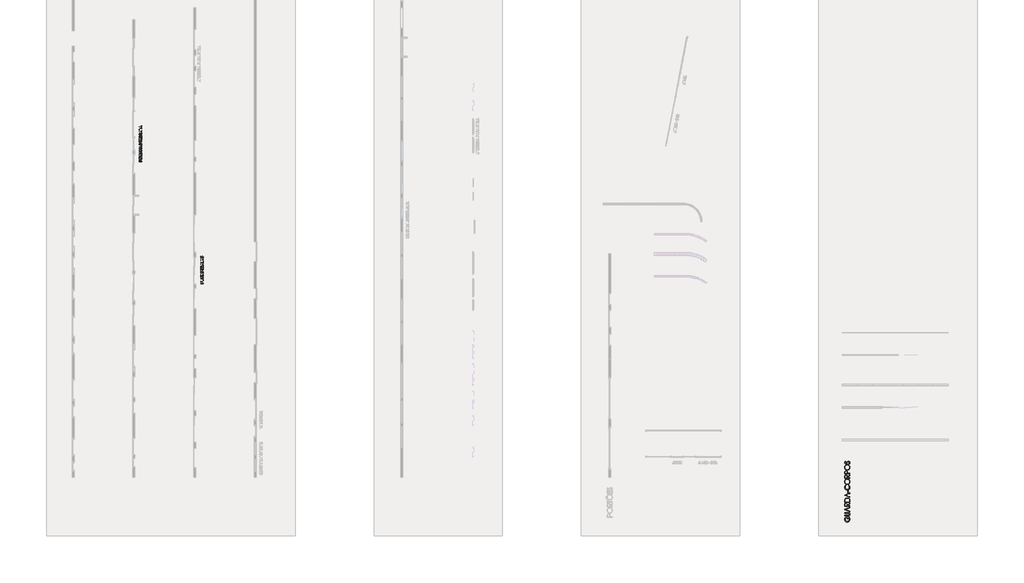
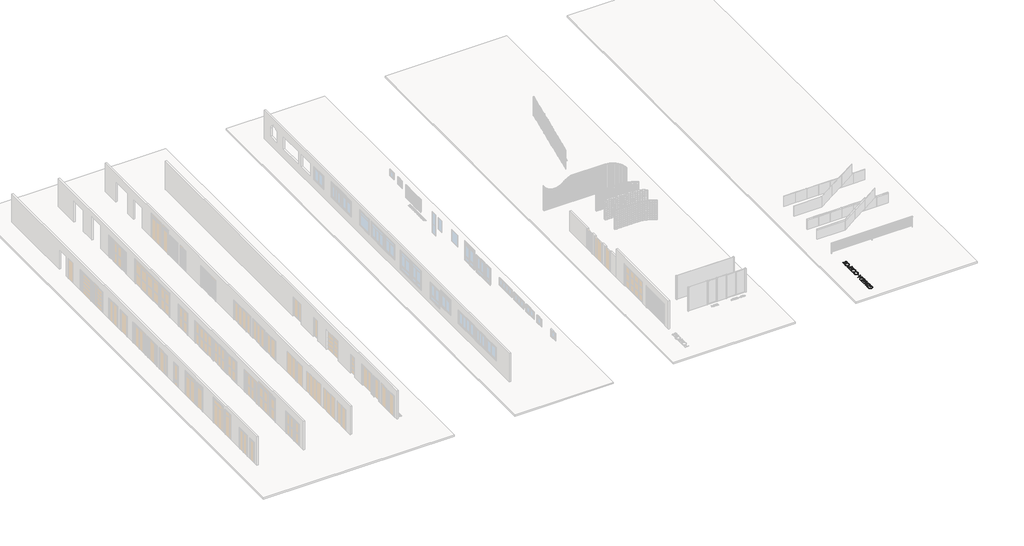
# One storey, part 13 of 15: 3 proxies.
"""IFC4 building model written with IfcOpenShell, lengths in millimetres."""

from ifc_helpers import new_model, si_unit, origin, origin_with_axes, place, context, project, spatial, polyline, outline, extrude, element, save

model = new_model("IFC4")

# Units and contexts
model_context = context("Model", 3, world=origin())
ifc_project = project(units=[si_unit("LENGTHUNIT", "METRE", prefix="MILLI")], contexts=[model_context])

# Site, building, storey
site = spatial("IfcSite", under=ifc_project)
building = spatial("IfcBuilding", under=site)
storey = spatial("IfcBuildingStorey", under=building, Name="TÉRREO", Elevation=0.0)

# Proxies
placement = place(None, origin())
element("IfcBuildingElementProxy", 1, Name="600mm Arial", ObjectType="600mm Arial", at=placement, inside=storey, context=model_context, shape_type="SweptSolid", body=[
    extrude(outline(polyline([(4277.4476059, 11661.1752263), (4277.4476059, 11699.233262), (4280.1484987, 11743.4296906), (4286.0413559, 11758.32757), (4295.9609987, 11770.217637), (4309.4286326, 11778.0072575), (4325.965463, 11780.6037977), (4342.5820925, 11778.0625031), (4355.9944809, 11770.4386192), (4365.871155, 11758.358262), (4371.8806416, 11742.4475477), (4374.8761773, 11693.733262), (4374.8761773, 11680.0323692), (4466.0190344, 11680.0323692), (4466.0190344, 11661.1752263), (4277.4476059, 11661.1752263)]), holes=[polyline([(4293.1618916, 11680.0323692), (4359.1618916, 11680.0323692), (4359.5056416, 11712.8359406), (4355.871713, 11741.9810299), (4344.1351059, 11756.467637), (4326.0145701, 11761.7466549), (4308.1395701, 11756.467637), (4296.5993916, 11742.5703156), (4293.1618916, 11714.3091549), (4293.1618916, 11680.0323692)])]), origin_with_axes(), (0.0, 0.0, 1.0), 10.0),
    extrude(outline(polyline([(4277.4476059, 11818.3180834), (4277.4476059, 11928.3180834), (4293.1618916, 11928.3180834), (4293.1618916, 11837.1752263), (4356.0190344, 11837.1752263), (4356.0190344, 11928.3180834), (4371.7333201, 11928.3180834), (4371.7333201, 11837.1752263), (4450.3047487, 11837.1752263), (4450.3047487, 11928.3180834), (4466.0190344, 11928.3180834), (4466.0190344, 11818.3180834), (4277.4476059, 11818.3180834)])), origin_with_axes(), (0.0, 0.0, 1.0), 10.0),
    extrude(outline(polyline([(4277.4476059, 11959.7466549), (4277.4476059, 11997.8046906), (4279.902963, 12040.8716549), (4285.7528514, 12056.2790209), (4295.8382309, 12068.5189763), (4309.4470478, 12076.5111638), (4325.8672487, 12079.1752263), (4339.8075389, 12077.3398468), (4351.9676951, 12071.8337084), (4361.856646, 12062.920762), (4368.9833201, 12050.8649584), (4373.3293023, 12034.6411861), (4374.8761773, 12013.2243334), (4466.0190344, 12082.3180834), (4466.0190344, 12059.4341549), (4374.8761773, 11990.3404049), (4374.8761773, 11978.6037977), (4466.0190344, 11978.6037977), (4466.0190344, 11959.7466549), (4277.4476059, 11959.7466549)]), holes=[polyline([(4293.1618916, 11978.6037977), (4359.1618916, 11978.6037977), (4359.3583201, 12011.9475477), (4355.6752844, 12040.6261192), (4343.8650166, 12055.1127263), (4325.7199273, 12060.3180834), (4308.0168023, 12055.0390656), (4296.5993916, 12041.1908513), (4293.1618916, 12012.733262), (4293.1618916, 11978.6037977)])]), origin_with_axes(), (0.0, 0.0, 1.0), 10.0),
    extrude(outline(polyline([(4431.6931416, 12101.1752263), (4422.0190344, 12117.2823692), (4445.590463, 12136.5569227), (4451.4833201, 12147.2438647), (4453.4476059, 12158.6305834), (4448.8806416, 12177.4386192), (4436.652963, 12190.8448692), (4420.3984987, 12195.4609406), (4410.6875612, 12193.7790209), (4401.1976059, 12188.733262), (4387.2757309, 12175.670762), (4370.7511773, 12154.9475477), (4344.871713, 12124.2064763), (4331.4777398, 12116.3616102), (4317.027963, 12113.7466549), (4305.6657978, 12115.2566995), (4295.3471594, 12119.7868334), (4286.5938112, 12127.0546906), (4279.9275166, 12136.7779049), (4274.3047487, 12160.545762), (4279.8538559, 12186.0569227), (4287.7355523, 12198.2661861), (4300.2824273, 12211.1752263), (4312.0190344, 12195.7064763), (4294.2913559, 12176.7511192), (4290.0190344, 12159.6618334), (4291.7807532, 12148.8214317), (4297.0659094, 12140.1662977), (4304.9414675, 12134.4944227), (4314.4743916, 12132.6037977), (4326.6038559, 12135.2555834), (4339.4208201, 12144.9296906), (4358.6708201, 12170.1216549), (4375.6189228, 12191.483262), (4390.6150166, 12204.889512), (4404.6657978, 12211.9609406), (4418.777963, 12214.3180834), (4437.7824273, 12210.3281281), (4454.1351059, 12198.358262), (4465.4051951, 12180.6674138), (4469.1618916, 12159.514512), (4467.0073157, 12142.7444227), (4460.543588, 12127.5948692), (4449.0218246, 12113.8203156), (4431.6931416, 12101.1752263)])), origin_with_axes(), (0.0, 0.0, 1.0), 10.0),
    extrude(outline(polyline([(4277.4476059, 12252.0323692), (4277.4476059, 12270.889512), (4466.0190344, 12270.889512), (4466.0190344, 12252.0323692), (4277.4476059, 12252.0323692)])), origin_with_axes(), (0.0, 0.0, 1.0), 10.0),
    extrude(outline(polyline([(4277.4476059, 12387.1752263), (4466.0190344, 12468.889512), (4466.0190344, 12448.6573692), (4400.0190344, 12420.0279049), (4400.0190344, 12351.1305834), (4466.0190344, 12322.5502263), (4466.0190344, 12302.3180834), (4277.4476059, 12384.0323692), (4277.4476059, 12387.1752263)]), holes=[polyline([(4320.465463, 12385.5546906), (4384.3047487, 12357.9073692), (4384.3047487, 12413.2511192), (4320.465463, 12385.5546906)])]), origin_with_axes(), (0.0, 0.0, 1.0), 10.0),
    extrude(outline(polyline([(4466.0190344, 12500.3180834), (4277.4476059, 12500.3180834), (4277.4476059, 12504.295762), (4422.4118916, 12632.3180834), (4277.4476059, 12632.3180834), (4277.4476059, 12651.1752263), (4466.0190344, 12651.1752263), (4466.0190344, 12646.9029049), (4321.3493916, 12519.1752263), (4466.0190344, 12519.1752263), (4466.0190344, 12500.3180834)])), origin_with_axes(), (0.0, 0.0, 1.0), 10.0),
    extrude(outline(polyline([(4277.4476059, 12767.4609406), (4466.0190344, 12849.1752263), (4466.0190344, 12828.9430834), (4400.0190344, 12800.3136192), (4400.0190344, 12731.4162977), (4466.0190344, 12702.8359406), (4466.0190344, 12682.6037977), (4277.4476059, 12764.3180834), (4277.4476059, 12767.4609406)]), holes=[polyline([(4320.465463, 12765.8404049), (4384.3047487, 12738.1930834), (4384.3047487, 12793.5368334), (4320.465463, 12765.8404049)])]), origin_with_axes(), (0.0, 0.0, 1.0), 10.0),
    extrude(outline(polyline([(4277.4476059, 12952.889512), (4277.4476059, 12971.7466549), (4466.0190344, 12971.7466549), (4466.0190344, 12952.889512), (4277.4476059, 12952.889512)])), origin_with_axes(), (0.0, 0.0, 1.0), 10.0),
    extrude(outline(polyline([(4466.0190344, 13015.7466549), (4277.4476059, 13015.7466549), (4277.4476059, 13019.7243334), (4422.4118916, 13147.7466549), (4277.4476059, 13147.7466549), (4277.4476059, 13166.6037977), (4466.0190344, 13166.6037977), (4466.0190344, 13162.3314763), (4321.3493916, 13034.6037977), (4466.0190344, 13034.6037977), (4466.0190344, 13015.7466549)])), origin_with_axes(), (0.0, 0.0, 1.0), 10.0),
    extrude(outline(polyline([(4293.1618916, 13191.7466549), (4277.4476059, 13191.7466549), (4277.4476059, 13292.3180834), (4293.1618916, 13292.3180834), (4293.1618916, 13251.4609406), (4466.0190344, 13251.4609406), (4466.0190344, 13232.6037977), (4293.1618916, 13232.6037977), (4293.1618916, 13191.7466549)])), origin_with_axes(), (0.0, 0.0, 1.0), 10.0),
    extrude(outline(polyline([(4277.4476059, 13320.6037977), (4277.4476059, 13430.6037977), (4293.1618916, 13430.6037977), (4293.1618916, 13339.4609406), (4356.0190344, 13339.4609406), (4356.0190344, 13430.6037977), (4371.7333201, 13430.6037977), (4371.7333201, 13339.4609406), (4450.3047487, 13339.4609406), (4450.3047487, 13430.6037977), (4466.0190344, 13430.6037977), (4466.0190344, 13320.6037977), (4277.4476059, 13320.6037977)])), origin_with_axes(), (0.0, 0.0, 1.0), 10.0),
    extrude(outline(polyline([(4307.5502844, 13641.1752263), (4321.4476059, 13626.4921906), (4307.8510657, 13610.342079), (4297.9989451, 13592.7310299), (4292.0140121, 13574.6289093), (4290.0190344, 13557.0055834), (4292.7751728, 13535.8649584), (4301.043588, 13515.7555834), (4314.0385657, 13498.3655165), (4330.9743916, 13485.3828156), (4350.4085434, 13477.2985522), (4370.8984987, 13474.6037977), (4391.9163559, 13477.4581504), (4411.8538559, 13486.0212084), (4429.1764005, 13499.623887), (4442.3493916, 13517.5971013), (4450.6730523, 13538.7070343), (4453.4476059, 13561.7198692), (4449.0770701, 13588.6305834), (4435.965463, 13611.0234406), (4415.8806416, 13627.0569227), (4390.590463, 13634.889512), (4390.590463, 13575.1752263), (4374.8761773, 13575.1752263), (4374.8761773, 13653.7466549), (4395.418309, 13652.0570622), (4413.7322041, 13647.23382), (4429.8178626, 13639.2769283), (4443.6752844, 13628.186387), (4454.8256751, 13614.459406), (4462.7902398, 13598.593195), (4467.5689786, 13580.5877542), (4469.1618916, 13560.4430834), (4466.9704853, 13536.0276258), (4460.3962666, 13514.2946459), (4449.4392353, 13495.2441437), (4434.0993916, 13478.8761192), (4404.9911326, 13461.5290209), (4371.684213, 13455.7466549), (4346.2282978, 13459.030695), (4322.6016237, 13468.8828156), (4302.3694809, 13484.468195), (4287.0971594, 13504.952012), (4277.5028514, 13529.3828156), (4274.3047487, 13556.8091549), (4276.2813112, 13579.5089317), (4282.2109987, 13600.858262), (4292.4989451, 13621.2745567), (4307.5502844, 13641.1752263)])), origin_with_axes(), (0.0, 0.0, 1.0), 10.0),
    extrude(outline(polyline([(4277.4476059, 13691.4609406), (4277.4476059, 13729.5189763), (4279.902963, 13772.5859406), (4285.7528514, 13787.9933067), (4295.8382309, 13800.233262), (4309.4470478, 13808.2254495), (4325.8672487, 13810.889512), (4339.8075389, 13809.0541325), (4351.9676951, 13803.5479942), (4361.856646, 13794.6350477), (4368.9833201, 13782.5792442), (4373.3293023, 13766.3554718), (4374.8761773, 13744.9386192), (4466.0190344, 13814.0323692), (4466.0190344, 13791.1484406), (4374.8761773, 13722.0546906), (4374.8761773, 13710.3180834), (4466.0190344, 13710.3180834), (4466.0190344, 13691.4609406), (4277.4476059, 13691.4609406)]), holes=[polyline([(4293.1618916, 13710.3180834), (4359.1618916, 13710.3180834), (4359.3583201, 13743.6618334), (4355.6752844, 13772.3404049), (4343.8650166, 13786.827012), (4325.7199273, 13792.0323692), (4308.0168023, 13786.7533513), (4296.5993916, 13772.905137), (4293.1618916, 13744.4475477), (4293.1618916, 13710.3180834)])]), origin_with_axes(), (0.0, 0.0, 1.0), 10.0),
    extrude(outline(polyline([(4277.4476059, 13924.0323692), (4466.0190344, 14005.7466549), (4466.0190344, 13985.514512), (4400.0190344, 13956.8850477), (4400.0190344, 13887.9877263), (4466.0190344, 13859.4073692), (4466.0190344, 13839.1752263), (4277.4476059, 13920.889512), (4277.4476059, 13924.0323692)]), holes=[polyline([(4320.465463, 13922.4118334), (4384.3047487, 13894.764512), (4384.3047487, 13950.108262), (4320.465463, 13922.4118334)])]), origin_with_axes(), (0.0, 0.0, 1.0), 10.0),
    extrude(outline(polyline([(4466.0190344, 14037.1752263), (4277.4476059, 14037.1752263), (4277.4476059, 14076.608262), (4279.1418023, 14113.4631727), (4284.2243916, 14138.5814763), (4297.3728291, 14163.2516772), (4317.5681416, 14181.8694227), (4343.5580969, 14193.5630611), (4374.090463, 14197.4609406), (4400.7249496, 14194.373329), (4423.9587666, 14185.1104942), (4442.6747264, 14170.9123915), (4455.7556416, 14153.0189763), (4463.4531862, 14129.3247799), (4466.0190344, 14097.7243334), (4466.0190344, 14037.1752263)]), holes=[polyline([(4450.3047487, 14056.0323692), (4450.3047487, 14077.983262), (4449.0525166, 14111.3392888), (4445.2958201, 14132.639512), (4435.277963, 14151.7667442), (4419.5636773, 14166.327012), (4398.9386773, 14175.5346013), (4374.1886773, 14178.6037977), (4348.0943693, 14175.2767888), (4326.0882309, 14165.295762), (4309.262896, 14149.3727709), (4298.7109987, 14128.2198692), (4294.5491684, 14104.623887), (4293.1618916, 14069.4877263), (4293.1618916, 14056.0323692), (4450.3047487, 14056.0323692)])]), origin_with_axes(), (0.0, 0.0, 1.0), 10.0),
    extrude(outline(polyline([(4277.4476059, 14307.4609406), (4466.0190344, 14389.1752263), (4466.0190344, 14368.9430834), (4400.0190344, 14340.3136192), (4400.0190344, 14271.4162977), (4466.0190344, 14242.8359406), (4466.0190344, 14222.6037977), (4277.4476059, 14304.3180834), (4277.4476059, 14307.4609406)]), holes=[polyline([(4320.465463, 14305.8404049), (4384.3047487, 14278.1930834), (4384.3047487, 14333.5368334), (4320.465463, 14305.8404049)])]), origin_with_axes(), (0.0, 0.0, 1.0), 10.0),
])
element("IfcBuildingElementProxy", 2, Name="600mm Arial", ObjectType="600mm Arial", at=placement, inside=storey, context=model_context, shape_type="SweptSolid", body=[
    extrude(outline(polyline([(8954.1104644, 2338.0827892), (8954.1104644, 2376.1408249), (8956.8113572, 2420.3372535), (8962.7042144, 2435.2351329), (8972.6238572, 2447.1251999), (8986.0914912, 2454.9148204), (9002.6283215, 2457.5113606), (9019.244951, 2454.970066), (9032.6573394, 2447.346182), (9042.5340135, 2435.2658249), (9048.5435001, 2419.3551106), (9051.5390358, 2370.6408249), (9051.5390358, 2356.939932), (9142.681893, 2356.939932), (9142.681893, 2338.0827892), (8954.1104644, 2338.0827892)]), holes=[polyline([(8969.8247501, 2356.939932), (9035.8247501, 2356.939932), (9036.1685001, 2389.7435035), (9032.5345715, 2418.8885927), (9020.7979644, 2433.3751999), (9002.6774287, 2438.6542177), (8984.8024287, 2433.3751999), (8973.2622501, 2419.4778785), (8969.8247501, 2391.2167177), (8969.8247501, 2356.939932)])]), origin_with_axes(), (0.0, 0.0, 1.0), 10.0),
    extrude(outline(polyline([(8950.9676072, 2586.7122535), (8952.7247222, 2607.2006742), (8957.9960671, 2625.9427222), (8966.7816418, 2642.9383974), (8979.0814465, 2658.1876999), (8993.9532378, 2670.7668014), (9010.4547724, 2679.751874), (9028.5860503, 2685.1429175), (9048.3470715, 2686.939932), (9067.9316139, 2685.1459867), (9085.9754197, 2679.7641508), (9102.4784889, 2670.7944242), (9117.4408215, 2658.236807), (9129.8587903, 2643.1010648), (9138.728768, 2626.3969633), (9144.0507546, 2608.1245023), (9145.8247501, 2588.283682), (9144.0584276, 2568.18198), (9138.7594599, 2549.7161597), (9129.9278472, 2532.8862211), (9117.5635894, 2517.6921642), (9102.6948673, 2505.1130626), (9086.3498617, 2496.1279901), (9068.5285726, 2490.7369465), (9049.2310001, 2488.939932), (9023.4497501, 2492.2178338), (8999.6327858, 2502.0515392), (8979.2778751, 2517.5387044), (8963.8827858, 2537.7769856), (8954.1964019, 2561.3177222), (8950.9676072, 2586.7122535)]), holes=[polyline([(8966.681893, 2587.5470749), (8969.4441697, 2567.0816731), (8977.7310001, 2547.721182), (8990.6952858, 2530.9756463), (9007.4899287, 2518.3551106), (9027.2678305, 2510.4365838), (9049.181893, 2507.7970749), (9080.5674956, 2513.6408249), (9106.6618037, 2531.1720749), (9124.2482992, 2556.9533249), (9130.1104644, 2587.5470749), (9127.4157099, 2608.767499), (9119.3314465, 2628.330557), (9106.5697278, 2645.0085704), (9089.8426072, 2657.5738606), (9070.089259, 2665.455557), (9048.2488572, 2668.0827892), (9026.604884, 2665.455557), (9007.1461787, 2657.5738606), (8990.6093483, 2644.9287713), (8977.7310001, 2628.0113606), (8969.4441697, 2608.3685035), (8966.681893, 2587.5470749)])]), origin_with_axes(), (0.0, 0.0, 1.0), 10.0),
    extrude(outline(polyline([(8954.1104644, 2724.6542177), (8954.1104644, 2762.7122535), (8956.5658215, 2805.7792177), (8962.4157099, 2821.1865838), (8972.5010894, 2833.4265392), (8986.1099064, 2841.4187267), (9002.5301072, 2844.0827892), (9016.4703974, 2842.2474097), (9028.6305537, 2836.7412713), (9038.5195046, 2827.8283249), (9045.6461787, 2815.7725213), (9049.9921608, 2799.548749), (9051.5390358, 2778.1318963), (9142.681893, 2847.2256463), (9142.681893, 2824.3417177), (9051.5390358, 2755.2479677), (9051.5390358, 2743.5113606), (9142.681893, 2743.5113606), (9142.681893, 2724.6542177), (8954.1104644, 2724.6542177)]), holes=[polyline([(8969.8247501, 2743.5113606), (9035.8247501, 2743.5113606), (9036.0211787, 2776.8551106), (9032.338143, 2805.533682), (9020.5278751, 2820.0202892), (9002.3827858, 2825.2256463), (8984.6796608, 2819.9466285), (8973.2622501, 2806.0984142), (8969.8247501, 2777.6408249), (8969.8247501, 2743.5113606)])]), origin_with_axes(), (0.0, 0.0, 1.0), 10.0),
    extrude(outline(polyline([(8969.8247501, 2866.0827892), (8954.1104644, 2866.0827892), (8954.1104644, 2966.6542177), (8969.8247501, 2966.6542177), (8969.8247501, 2925.7970749), (9142.681893, 2925.7970749), (9142.681893, 2906.939932), (8969.8247501, 2906.939932), (8969.8247501, 2866.0827892)])), origin_with_axes(), (0.0, 0.0, 1.0), 10.0),
    extrude(outline(polyline([(8954.1104644, 3067.2256463), (9142.681893, 3148.939932), (9142.681893, 3128.7077892), (9076.681893, 3100.0783249), (9076.681893, 3031.1810035), (9142.681893, 3002.6006463), (9142.681893, 2982.3685035), (8954.1104644, 3064.0827892), (8954.1104644, 3067.2256463)]), holes=[polyline([(8997.1283215, 3065.6051106), (9060.9676072, 3037.9577892), (9060.9676072, 3093.3015392), (8997.1283215, 3065.6051106)])]), origin_with_axes(), (0.0, 0.0, 1.0), 10.0),
    extrude(outline(polyline([(9108.3560001, 3161.5113606), (9098.681893, 3177.6185035), (9122.2533215, 3196.893057), (9128.1461787, 3207.579999), (9130.1104644, 3218.9667177), (9125.5435001, 3237.7747535), (9113.3158215, 3251.1810035), (9097.0613572, 3255.7970749), (9087.3504197, 3254.1151552), (9077.8604644, 3249.0693963), (9063.9385894, 3236.0068963), (9047.4140358, 3215.283682), (9021.5345715, 3184.5426106), (9008.1405983, 3176.6977445), (8993.6908215, 3174.0827892), (8982.3286564, 3175.5928338), (8972.010018, 3180.1229677), (8963.2566697, 3187.3908249), (8956.5903751, 3197.1140392), (8950.9676072, 3220.8818963), (8956.5167144, 3246.393057), (8964.3984108, 3258.6023204), (8976.9452858, 3271.5113606), (8988.681893, 3256.0426106), (8970.9542144, 3237.0872535), (8966.681893, 3219.9979677), (8968.4436117, 3209.157566), (8973.728768, 3200.502432), (8981.604326, 3194.830557), (8991.1372501, 3192.939932), (9003.2667144, 3195.5917177), (9016.0836787, 3205.2658249), (9035.3336787, 3230.4577892), (9052.2817814, 3251.8193963), (9067.2778751, 3265.2256463), (9081.3286564, 3272.2970749), (9095.4408215, 3274.6542177), (9114.4452858, 3270.6642624), (9130.7979644, 3258.6943963), (9142.0680537, 3241.0035481), (9145.8247501, 3219.8506463), (9143.6701742, 3203.080557), (9137.2064465, 3187.9310035), (9125.6846831, 3174.1564499), (9108.3560001, 3161.5113606)])), origin_with_axes(), (0.0, 0.0, 1.0), 10.0),
    extrude(outline(polyline([(8969.8247501, 3365.7970749), (8954.1104644, 3365.7970749), (8954.1104644, 3466.3685035), (8969.8247501, 3466.3685035), (8969.8247501, 3425.5113606), (9142.681893, 3425.5113606), (9142.681893, 3406.6542177), (8969.8247501, 3406.6542177), (8969.8247501, 3365.7970749)])), origin_with_axes(), (0.0, 0.0, 1.0), 10.0),
    extrude(outline(polyline([(8954.1104644, 3494.6542177), (8954.1104644, 3604.6542177), (8969.8247501, 3604.6542177), (8969.8247501, 3513.5113606), (9032.681893, 3513.5113606), (9032.681893, 3604.6542177), (9048.3961787, 3604.6542177), (9048.3961787, 3513.5113606), (9126.9676072, 3513.5113606), (9126.9676072, 3604.6542177), (9142.681893, 3604.6542177), (9142.681893, 3494.6542177), (8954.1104644, 3494.6542177)])), origin_with_axes(), (0.0, 0.0, 1.0), 10.0),
    extrude(outline(polyline([(8954.1104644, 3636.0827892), (8954.1104644, 3654.939932), (9126.9676072, 3654.939932), (9126.9676072, 3730.3685035), (9142.681893, 3730.3685035), (9142.681893, 3636.0827892), (8954.1104644, 3636.0827892)])), origin_with_axes(), (0.0, 0.0, 1.0), 10.0),
    extrude(outline(polyline([(8954.1104644, 3830.939932), (9142.681893, 3912.6542177), (9142.681893, 3892.4220749), (9076.681893, 3863.7926106), (9076.681893, 3794.8952892), (9142.681893, 3766.314932), (9142.681893, 3746.0827892), (8954.1104644, 3827.7970749), (8954.1104644, 3830.939932)]), holes=[polyline([(8997.1283215, 3829.3193963), (9060.9676072, 3801.6720749), (9060.9676072, 3857.0158249), (8997.1283215, 3829.3193963)])]), origin_with_axes(), (0.0, 0.0, 1.0), 10.0),
    extrude(outline(polyline([(9142.681893, 3944.0827892), (8954.1104644, 3944.0827892), (8954.1104644, 3983.5158249), (8955.8046608, 4020.3707356), (8960.8872501, 4045.4890392), (8974.0356876, 4070.1592401), (8994.2310001, 4088.7769856), (9020.2209555, 4100.470624), (9050.7533215, 4104.3685035), (9077.3878081, 4101.2808919), (9100.6216251, 4092.018057), (9119.3375849, 4077.8199544), (9132.4185001, 4059.9265392), (9140.1160447, 4036.2323427), (9142.681893, 4004.6318963), (9142.681893, 3944.0827892)]), holes=[polyline([(9126.9676072, 3962.939932), (9126.9676072, 3984.8908249), (9125.7153751, 4018.2468517), (9121.9586787, 4039.5470749), (9111.9408215, 4058.674307), (9096.2265358, 4073.2345749), (9075.6015358, 4082.4421642), (9050.8515358, 4085.5113606), (9024.7572278, 4082.1843517), (9002.7510894, 4072.2033249), (8985.9257546, 4056.2803338), (8975.3738572, 4035.127432), (8971.2120269, 4011.5314499), (8969.8247501, 3976.3952892), (8969.8247501, 3962.939932), (9126.9676072, 3962.939932)])]), origin_with_axes(), (0.0, 0.0, 1.0), 10.0),
    extrude(outline(polyline([(8954.1104644, 4214.3685035), (9142.681893, 4296.0827892), (9142.681893, 4275.8506463), (9076.681893, 4247.221182), (9076.681893, 4178.3238606), (9142.681893, 4149.7435035), (9142.681893, 4129.5113606), (8954.1104644, 4211.2256463), (8954.1104644, 4214.3685035)]), holes=[polyline([(8997.1283215, 4212.7479677), (9060.9676072, 4185.1006463), (9060.9676072, 4240.4443963), (8997.1283215, 4212.7479677)])]), origin_with_axes(), (0.0, 0.0, 1.0), 10.0),
    extrude(outline(polyline([(9108.3560001, 4308.6542177), (9098.681893, 4324.7613606), (9122.2533215, 4344.0359142), (9128.1461787, 4354.7228561), (9130.1104644, 4366.1095749), (9125.5435001, 4384.9176106), (9113.3158215, 4398.3238606), (9097.0613572, 4402.939932), (9087.3504197, 4401.2580124), (9077.8604644, 4396.2122535), (9063.9385894, 4383.1497535), (9047.4140358, 4362.4265392), (9021.5345715, 4331.6854677), (9008.1405983, 4323.8406017), (8993.6908215, 4321.2256463), (8982.3286564, 4322.735691), (8972.010018, 4327.2658249), (8963.2566697, 4334.533682), (8956.5903751, 4344.2568963), (8950.9676072, 4368.0247535), (8956.5167144, 4393.5359142), (8964.3984108, 4405.7451776), (8976.9452858, 4418.6542177), (8988.681893, 4403.1854677), (8970.9542144, 4384.2301106), (8966.681893, 4367.1408249), (8968.4436117, 4356.3004231), (8973.728768, 4347.6452892), (8981.604326, 4341.9734142), (8991.1372501, 4340.0827892), (9003.2667144, 4342.7345749), (9016.0836787, 4352.408682), (9035.3336787, 4377.6006463), (9052.2817814, 4398.9622535), (9067.2778751, 4412.3685035), (9081.3286564, 4419.439932), (9095.4408215, 4421.7970749), (9114.4452858, 4417.8071195), (9130.7979644, 4405.8372535), (9142.0680537, 4388.1464052), (9145.8247501, 4366.9935035), (9143.6701742, 4350.2234142), (9137.2064465, 4335.0738606), (9125.6846831, 4321.299307), (9108.3560001, 4308.6542177)])), origin_with_axes(), (0.0, 0.0, 1.0), 10.0),
])
element("IfcBuildingElementProxy", 3, Name="600mm Arial 2", ObjectType="600mm Arial 2", at=placement, inside=storey, context=model_context, shape_type="SweptSolid", body=[
    extrude(outline(polyline([(58178.131222, -15482.9892881), (58206.044308, -15512.4804991), (58178.735348, -15544.9183653), (58158.94714, -15580.2905577), (58146.926266, -15616.6490782), (58142.919308, -15652.0459287), (58148.4550746, -15694.5073545), (58165.0623744, -15734.8974912), (58191.1630824, -15769.825836), (58225.1790736, -15795.9018858), (58264.2130091, -15812.1393125), (58305.3675501, -15817.5517881), (58347.5823939, -15811.8187559), (58387.6273158, -15794.6196592), (58422.4200404, -15767.2983702), (58448.8782923, -15731.1987608), (58465.596554, -15688.7989805), (58471.169308, -15642.5771787), (58468.9747279, -15614.4175108), (58462.3909876, -15588.5263975), (58451.4180873, -15564.9038389), (58436.0560267, -15543.549835), (58417.1925013, -15525.3890684), (58395.7152064, -15511.3462217), (58371.6241419, -15501.421295), (58344.919308, -15495.6142881), (58344.919308, -15615.5517881), (58313.356808, -15615.5517881), (58313.356808, -15457.7392881), (58354.6161463, -15461.1328733), (58391.4000208, -15470.8204649), (58423.7084315, -15486.8020628), (58451.5413783, -15509.077667), (58473.9371913, -15536.6486204), (58489.9342005, -15568.5162657), (58499.5324061, -15604.6806028), (58502.731808, -15645.1416319), (58498.3303187, -15694.1806333), (58485.1258509, -15737.8318174), (58463.1184046, -15776.0951841), (58432.3079798, -15808.9707334), (58404.1298182, -15829.2952574), (58373.8433802, -15843.8127745), (58341.4486659, -15852.5232847), (58306.9456751, -15855.4267881), (58280.922024, -15853.7777708), (58255.816891, -15848.8307188), (58231.630276, -15840.5856321), (58208.362179, -15829.0425108), (58186.7985804, -15814.6205442), (58167.7254603, -15797.7389219), (58151.1428187, -15778.3976438), (58137.0506556, -15756.59671), (58125.8095973, -15732.8138731), (58117.7802699, -15707.5268858), (58112.9626734, -15680.7357481), (58111.356808, -15652.44046), (58115.3267787, -15606.8474424), (58127.2366908, -15563.9668272), (58147.900265, -15522.9602354), (58178.131222, -15482.9892881)])), origin_with_axes(), (0.0, 0.0, 1.0), 10.0),
    extrude(outline(polyline([(58117.669308, -15381.9892881), (58117.669308, -15344.1142881), (58347.0892298, -15344.1142881), (58398.0823939, -15342.5361631), (58418.7213099, -15337.789459), (58435.6614955, -15329.2700498), (58449.5317347, -15316.0779112), (58460.9608119, -15297.3130186), (58468.6171839, -15275.7001036), (58471.169308, -15253.9638975), (58469.1719935, -15235.334625), (58463.1800501, -15217.5190733), (58453.6249964, -15201.5405577), (58440.9383509, -15188.4223936), (58425.2187464, -15178.3002012), (58406.5648158, -15171.3096006), (58347.0892298, -15167.3642881), (58117.669308, -15167.3642881), (58117.669308, -15129.4892881), (58344.4261439, -15129.4892881), (58389.9081996, -15131.9797666), (58425.7488978, -15139.4512022), (58454.7592738, -15154.4187315), (58479.7503626, -15179.3974912), (58489.804745, -15195.1725767), (58496.9864466, -15212.513458), (58502.731808, -15251.8926084), (58497.3070033, -15294.6745909), (58481.0325892, -15330.8974912), (58455.8072474, -15358.3913877), (58440.5499842, -15368.0512388), (58423.5296595, -15374.9863584), (58392.8055384, -15380.2385557), (58344.4261439, -15381.9892881), (58117.669308, -15381.9892881)])), origin_with_axes(), (0.0, 0.0, 1.0), 10.0),
    extrude(outline(polyline([(58117.669308, -14895.9267881), (58496.419308, -14731.8017881), (58496.419308, -14772.4385069), (58363.856808, -14829.9414366), (58363.856808, -14968.3232725), (58496.419308, -15025.7275694), (58496.419308, -15066.3642881), (58117.669308, -14902.2392881), (58117.669308, -14895.9267881)]), holes=[polyline([(58204.0716517, -14899.1816709), (58332.294308, -14954.7119444), (58332.294308, -14843.5527647), (58204.0716517, -14899.1816709)])]), origin_with_axes(), (0.0, 0.0, 1.0), 10.0),
    extrude(outline(polyline([(58117.669308, -14668.6767881), (58117.669308, -14592.2363584), (58118.9022181, -14538.7033995), (58122.6009486, -14505.7353819), (58134.3505824, -14474.789337), (58154.6072962, -14450.2051084), (58181.9409144, -14434.1526182), (58214.9212611, -14428.8017881), (58242.9206507, -14432.4881895), (58267.3446009, -14443.5473936), (58287.2067835, -14461.4492491), (58301.5208705, -14485.6636045), (58310.2498744, -14518.24942), (58313.356808, -14561.2656553), (58496.419308, -14422.4892881), (58496.419308, -14468.4521787), (58313.356808, -14607.2285459), (58313.356808, -14630.8017881), (58496.419308, -14630.8017881), (58496.419308, -14668.6767881), (58117.669308, -14668.6767881)]), holes=[polyline([(58149.231808, -14630.8017881), (58281.794308, -14630.8017881), (58282.1888392, -14563.8301084), (58280.339474, -14529.9497373), (58274.7913783, -14506.2285459), (58265.1623499, -14489.6335752), (58251.0701869, -14477.1318662), (58233.7971156, -14469.2905577), (58214.6253626, -14466.6767881), (58195.971432, -14469.327545), (58179.0682337, -14477.2798155), (58165.3212855, -14489.5349424), (58156.1361048, -14505.0942686), (58150.9578822, -14527.9894102), (58149.231808, -14562.2519834), (58149.231808, -14630.8017881)])]), origin_with_axes(), (0.0, 0.0, 1.0), 10.0),
    extrude(outline(polyline([(58496.419308, -14346.7392881), (58117.669308, -14346.7392881), (58117.669308, -14267.5371397), (58121.07214, -14193.5132139), (58131.2806361, -14143.0625303), (58142.7158778, -14116.767639), (58157.6895716, -14093.5118711), (58176.2017176, -14073.2952268), (58198.2523158, -14056.1177061), (58223.2125819, -14042.416992), (58250.4537318, -14032.6307676), (58279.9757655, -14026.759033), (58311.778683, -14024.8017881), (58339.3804591, -14026.3521726), (58365.2746546, -14031.0033262), (58389.4612696, -14038.7552488), (58411.940304, -14049.6079405), (58432.1507838, -14062.9387815), (58449.5317347, -14078.1251524), (58464.0831568, -14095.167053), (58475.8050501, -14114.0644834), (58484.8237879, -14135.8746641), (58491.2657435, -14161.6548155), (58496.419308, -14225.1250303), (58496.419308, -14346.7392881)]), holes=[polyline([(58464.856808, -14308.8642881), (58464.856808, -14264.7754209), (58462.3416712, -14197.779083), (58454.7962611, -14154.9971006), (58446.16589, -14134.6417539), (58434.6751673, -14116.5796202), (58420.3240931, -14100.8106993), (58403.1126673, -14087.3349912), (58383.4354212, -14076.5470274), (58361.6868861, -14068.8413389), (58337.8670619, -14064.2179258), (58311.9759486, -14062.6767881), (58284.7440455, -14064.3473814), (58259.5649378, -14069.3591612), (58236.4386256, -14077.7121275), (58215.3651087, -14089.4062803), (58196.8930323, -14104.0840757), (58181.5710414, -14121.3879698), (58169.3991358, -14141.3179624), (58160.3773158, -14163.8740537), (58152.0181849, -14211.2671202), (58149.231808, -14281.8388975), (58149.231808, -14308.8642881), (58464.856808, -14308.8642881)])]), origin_with_axes(), (0.0, 0.0, 1.0), 10.0),
    extrude(outline(polyline([(58117.669308, -13803.8642881), (58496.419308, -13639.7392881), (58496.419308, -13680.3760069), (58363.856808, -13737.8789366), (58363.856808, -13876.2607725), (58496.419308, -13933.6650694), (58496.419308, -13974.3017881), (58117.669308, -13810.1767881), (58117.669308, -13803.8642881)]), holes=[polyline([(58204.0716517, -13807.1191709), (58332.294308, -13862.6494444), (58332.294308, -13751.4902647), (58204.0716517, -13807.1191709)])]), origin_with_axes(), (0.0, 0.0, 1.0), 10.0),
    extrude(outline(polyline([(58338.606808, -13608.1767881), (58338.606808, -13462.9892881), (58370.169308, -13462.9892881), (58370.169308, -13608.1767881), (58338.606808, -13608.1767881)])), origin_with_axes(), (0.0, 0.0, 1.0), 10.0),
    extrude(outline(polyline([(58182.9642298, -13046.3642881), (58206.044308, -13076.3486631), (58178.735348, -13103.3617246), (58158.94714, -13135.2817686), (58146.926266, -13171.3443907), (58142.919308, -13210.7851866), (58148.4180873, -13254.0973203), (58164.9144251, -13294.0805967), (58190.6822474, -13328.0965879), (58223.9954798, -13353.5068662), (58263.3992884, -13369.3374327), (58307.4388392, -13374.6142881), (58341.0048182, -13371.6676328), (58371.6734583, -13362.827667), (58399.4447596, -13348.0943907), (58424.318722, -13327.4678037), (58444.8158534, -13302.3534239), (58459.4566615, -13274.1567686), (58468.2411463, -13242.8778379), (58471.169308, -13208.5166319), (58467.2239955, -13170.6293028), (58455.388058, -13135.9721983), (58435.6614955, -13104.5453184), (58408.044308, -13076.3486631), (58430.8284876, -13046.3642881), (58461.2690394, -13077.8404844), (58483.9422572, -13116.2456358), (58498.0344203, -13160.5687559), (58502.731808, -13209.7988584), (58498.6632044, -13256.365875), (58486.4573939, -13297.7300108), (58466.1143763, -13333.8912657), (58437.6341517, -13364.8496397), (58408.7347376, -13385.6919859), (58376.974972, -13400.579376), (58342.3548548, -13409.5118101), (58304.8743861, -13412.4892881), (58265.6092799, -13408.8861082), (58229.5805628, -13398.0765684), (58196.788235, -13380.0606687), (58167.2322962, -13354.8384092), (58142.7867701, -13324.1851805), (58125.32568, -13289.8763731), (58114.849026, -13251.9119871), (58111.356808, -13210.2920225), (58116.0665248, -13160.4454649), (58130.1956751, -13115.6538389), (58152.8072474, -13077.1993711), (58182.9642298, -13046.3642881)])), origin_with_axes(), (0.0, 0.0, 1.0), 10.0),
    extrude(outline(polyline([(58111.356808, -12786.8613584), (58114.8860133, -12745.7098997), (58125.4736292, -12708.0660703), (58143.1196559, -12673.9298704), (58167.8240931, -12643.3012998), (58197.6944239, -12618.0358885), (58230.8381312, -12599.9891661), (58267.2552149, -12589.1611326), (58306.9456751, -12585.5517881), (58346.2816737, -12589.1549681), (58382.5230677, -12599.9645078), (58415.6698573, -12617.9804075), (58445.7220423, -12643.202667), (58470.6638148, -12673.6031492), (58488.4793665, -12707.1537168), (58499.1686976, -12743.8543699), (58502.731808, -12783.7051084), (58499.184109, -12824.0798338), (58488.5410121, -12861.1688536), (58470.8025172, -12894.9721678), (58445.9686244, -12925.4897764), (58416.1044581, -12950.7551878), (58383.2751429, -12968.8019102), (58347.4806788, -12979.6299436), (58308.7210658, -12983.2392881), (58282.3367884, -12981.5933531), (58256.9388392, -12976.6555479), (58232.5272181, -12968.4258726), (58209.1019251, -12956.9043272), (58187.4150355, -12942.5440061), (58168.2186244, -12925.7980039), (58151.5126917, -12906.6663206), (58137.2972376, -12885.1489561), (58125.9482997, -12861.9733274), (58117.8419154, -12837.8668516), (58112.9780848, -12812.8295286), (58111.356808, -12786.8613584)]), holes=[polyline([(58142.919308, -12785.1846006), (58148.4674037, -12826.2898252), (58165.1116908, -12865.1758116), (58191.1507533, -12898.8096006), (58224.8831751, -12924.1582334), (58264.6075404, -12940.0627745), (58308.622433, -12945.3642881), (58341.4702418, -12942.429962), (58371.6611292, -12933.6269834), (58399.1950953, -12918.9553526), (58424.07214, -12898.4150694), (58444.677151, -12873.732208), (58459.395016, -12846.6328428), (58468.225735, -12817.1169737), (58471.169308, -12785.1846006), (58465.7568324, -12742.5628965), (58449.5194056, -12703.2700498), (58423.8872035, -12669.7718809), (58390.2904017, -12644.53421), (58350.6153529, -12628.7036436), (58306.7484095, -12623.4267881), (58263.2759974, -12628.7036436), (58224.1927455, -12644.53421), (58190.9781458, -12669.9321592), (58165.1116908, -12703.9111631), (58148.4674037, -12743.3642881), (58142.919308, -12785.1846006)])]), origin_with_axes(), (0.0, 0.0, 1.0), 10.0),
    extrude(outline(polyline([(58117.669308, -12509.8017881), (58117.669308, -12433.3613584), (58118.9022181, -12379.8283995), (58122.6009486, -12346.8603819), (58134.3505824, -12315.914337), (58154.6072962, -12291.3301084), (58181.9409144, -12275.2776182), (58214.9212611, -12269.9267881), (58242.9206507, -12273.6131895), (58267.3446009, -12284.6723936), (58287.2067835, -12302.5742491), (58301.5208705, -12326.7886045), (58310.2498744, -12359.37442), (58313.356808, -12402.3906553), (58496.419308, -12263.6142881), (58496.419308, -12309.5771787), (58313.356808, -12448.3535459), (58313.356808, -12471.9267881), (58496.419308, -12471.9267881), (58496.419308, -12509.8017881), (58117.669308, -12509.8017881)]), holes=[polyline([(58149.231808, -12471.9267881), (58281.794308, -12471.9267881), (58282.1888392, -12404.9551084), (58280.339474, -12371.0747373), (58274.7913783, -12347.3535459), (58265.1623499, -12330.7585752), (58251.0701869, -12318.2568662), (58233.7971156, -12310.4155577), (58214.6253626, -12307.8017881), (58195.971432, -12310.452545), (58179.0682337, -12318.4048155), (58165.3212855, -12330.6599424), (58156.1361048, -12346.2192686), (58150.9578822, -12369.1144102), (58149.231808, -12403.3769834), (58149.231808, -12471.9267881)])]), origin_with_axes(), (0.0, 0.0, 1.0), 10.0),
    extrude(outline(polyline([(58117.669308, -12187.8642881), (58117.669308, -12111.4238584), (58119.0255091, -12056.3374327), (58123.0941126, -12022.6543272), (58134.9300501, -11992.7315977), (58154.8538783, -11968.850128), (58181.9039271, -11953.2044981), (58215.1185267, -11947.9892881), (58248.4934046, -11953.0935362), (58275.4324915, -11968.4062803), (58295.270016, -11992.6699522), (58307.3402064, -12024.6269834), (58311.8526576, -12062.206085), (58313.356808, -12122.4707334), (58313.356808, -12149.9892881), (58496.419308, -12149.9892881), (58496.419308, -12187.8642881), (58117.669308, -12187.8642881)]), holes=[polyline([(58149.231808, -12149.9892881), (58281.794308, -12149.9892881), (58282.4847376, -12084.1025694), (58280.6600306, -12049.4454649), (58275.1859095, -12025.5639952), (58265.6431849, -12009.0429991), (58251.6126673, -11996.4673155), (58234.3765833, -11988.515045), (58215.2171595, -11985.8642881), (58196.4276087, -11988.515045), (58179.3148158, -11996.4673155), (58165.382931, -12008.7471006), (58156.1361048, -12024.3804014), (58150.9578822, -12047.2262266), (58149.231808, -12081.143585), (58149.231808, -12149.9892881)])]), origin_with_axes(), (0.0, 0.0, 1.0), 10.0),
    extrude(outline(polyline([(58111.356808, -11688.4863584), (58114.8860133, -11647.3348997), (58125.4736292, -11609.6910703), (58143.1196559, -11575.5548704), (58167.8240931, -11544.9262998), (58197.6944239, -11519.6608885), (58230.8381312, -11501.6141661), (58267.2552149, -11490.7861326), (58306.9456751, -11487.1767881), (58346.2816737, -11490.7799681), (58382.5230677, -11501.5895078), (58415.6698573, -11519.6054075), (58445.7220423, -11544.827667), (58470.6638148, -11575.2281492), (58488.4793665, -11608.7787168), (58499.1686976, -11645.4793699), (58502.731808, -11685.3301084), (58499.184109, -11725.7048338), (58488.5410121, -11762.7938536), (58470.8025172, -11796.5971678), (58445.9686244, -11827.1147764), (58416.1044581, -11852.3801878), (58383.2751429, -11870.4269102), (58347.4806788, -11881.2549436), (58308.7210658, -11884.8642881), (58282.3367884, -11883.2183531), (58256.9388392, -11878.2805479), (58232.5272181, -11870.0508726), (58209.1019251, -11858.5293272), (58187.4150355, -11844.1690061), (58168.2186244, -11827.4230039), (58151.5126917, -11808.2913206), (58137.2972376, -11786.7739561), (58125.9482997, -11763.5983274), (58117.8419154, -11739.4918516), (58112.9780848, -11714.4545286), (58111.356808, -11688.4863584)]), holes=[polyline([(58142.919308, -11686.8096006), (58148.4674037, -11727.9148252), (58165.1116908, -11766.8008116), (58191.1507533, -11800.4346006), (58224.8831751, -11825.7832334), (58264.6075404, -11841.6877745), (58308.622433, -11846.9892881), (58341.4702418, -11844.054962), (58371.6611292, -11835.2519834), (58399.1950953, -11820.5803526), (58424.07214, -11800.0400694), (58444.677151, -11775.357208), (58459.395016, -11748.2578428), (58468.225735, -11718.7419737), (58471.169308, -11686.8096006), (58465.7568324, -11644.1878965), (58449.5194056, -11604.8950498), (58423.8872035, -11571.3968809), (58390.2904017, -11546.15921), (58350.6153529, -11530.3286436), (58306.7484095, -11525.0517881), (58263.2759974, -11530.3286436), (58224.1927455, -11546.15921), (58190.9781458, -11571.5571592), (58165.1116908, -11605.5361631), (58148.4674037, -11644.9892881), (58142.919308, -11686.8096006)])]), origin_with_axes(), (0.0, 0.0, 1.0), 10.0),
    extrude(outline(polyline([(58427.474972, -11449.3017881), (58408.044308, -11416.9502256), (58435.6614955, -11398.296295), (58455.388058, -11378.2368467), (58467.2239955, -11356.7718809), (58471.169308, -11333.9013975), (58468.8760951, -11314.3967588), (58461.9964564, -11296.1250303), (58451.270138, -11280.5657041), (58437.4368861, -11269.1982725), (58421.5816615, -11262.2446592), (58404.7894251, -11259.9267881), (58385.2847865, -11263.304962), (58366.2239955, -11273.4394834), (58338.2615931, -11299.6758116), (58305.0716517, -11341.2988584), (58274.1256068, -11381.5410459), (58253.0921595, -11403.0429991), (58226.1900599, -11418.7995909), (58197.1673548, -11424.0517881), (58174.3461878, -11421.0188291), (58153.6209681, -11411.9199522), (58136.0396693, -11397.3222959), (58122.650265, -11377.7929991), (58114.1801722, -11354.8608702), (58111.356808, -11330.0547178), (58114.1431849, -11303.5348203), (58122.5023158, -11278.8149717), (58138.3328822, -11254.2923887), (58163.5335658, -11228.3642881), (58187.106808, -11259.4336241), (58164.6925013, -11280.0971983), (58151.5003626, -11297.5058897), (58145.0645716, -11313.9775694), (58142.919308, -11331.8301084), (58146.4577601, -11353.6033018), (58157.0731165, -11370.987335), (58172.8913539, -11382.3794248), (58192.0384486, -11386.1767881), (58216.4007533, -11380.8506162), (58242.1439173, -11361.4199522), (58280.8079798, -11310.8213194), (58314.8486292, -11267.9160459), (58344.9686244, -11240.9892881), (58373.1899378, -11226.7861631), (58401.5345423, -11222.0517881), (58421.285763, -11224.0552671), (58439.7054408, -11230.0657041), (58456.7935755, -11240.0830992), (58472.5501673, -11254.1074522), (58485.7546351, -11271.0044859), (58495.1863978, -11289.6399229), (58500.8454554, -11310.0137632), (58502.731808, -11332.1260069), (58498.4042933, -11365.8091123), (58485.4217494, -11396.237335), (58462.2800257, -11423.9038389), (58427.474972, -11449.3017881)])), origin_with_axes(), (0.0, 0.0, 1.0), 10.0),
])

save(model, "model.ifc")
